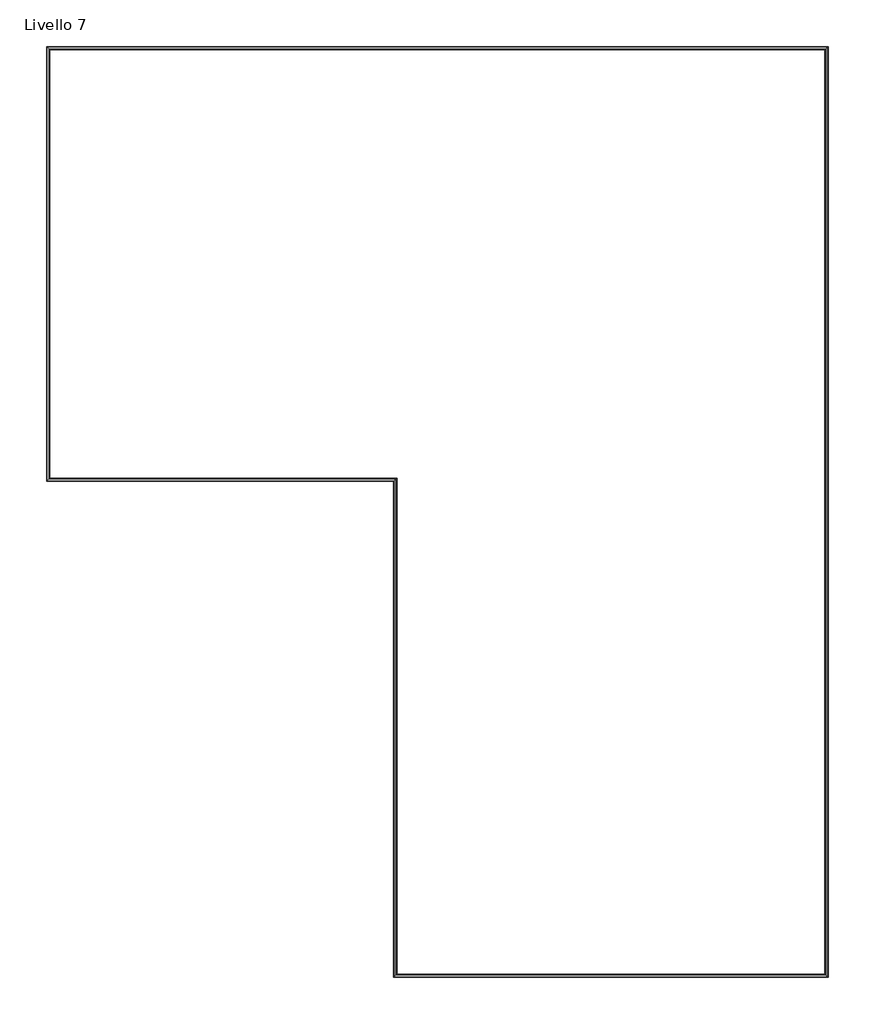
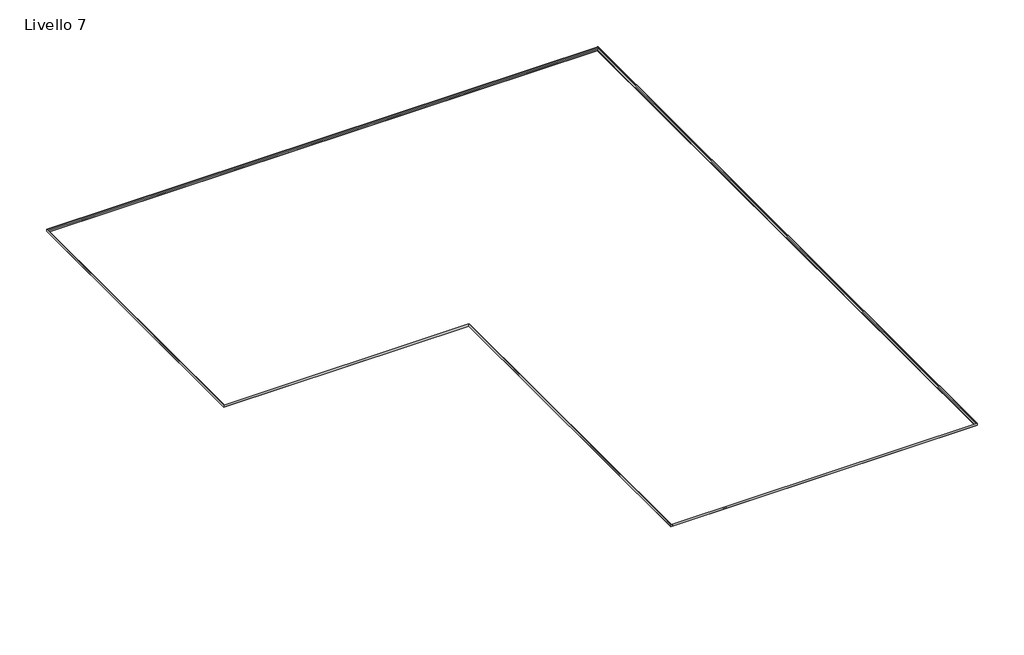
# One storey: 1 proxy.
"""IFC4 building model written with IfcOpenShell, lengths in millimetres."""

import ifcopenshell
import ifcopenshell.guid

model = None  # the IFC model being written
_history = None  # IfcOwnerHistory: only IFC2X3 demands one
_inside = {}  # id of a spatial element -> (the spatial element, [elements in it])
_under = {}  # id of a project, library or spatial element -> (it, [spatial elements below it])
_declared = {}  # id of a project -> (the project, [libraries it declares])
_typed = {}  # id of a type object -> (the type object, [elements of that type])
_made_of = {}  # id of a material, layer set ... -> (it, [elements and type objects made of it])


def new_model(schema):
    """Start an empty IFC model of exactly this schema.

    Asked for "IFC4X3", IfcOpenShell would pick the latest addendum, in which some entities
    have other attributes; the version numbers below select the first issue.
    IFC2X3 requires an IfcOwnerHistory on every rooted entity: one is made here for all.
    """
    global model, _history
    if schema == "IFC4X3":
        model = ifcopenshell.file(schema_version=(4, 3, 0, 0))
    else:
        model = ifcopenshell.file(schema=schema)
    _inside.clear()
    _under.clear()
    _declared.clear()
    _typed.clear()
    _made_of.clear()
    _history = None
    if model.schema == "IFC2X3":
        org = make("IfcOrganization", Name="unknown")
        user = make(
            "IfcPersonAndOrganization",
            ThePerson=make("IfcPerson", FamilyName="unknown"),
            TheOrganization=org,
        )
        app = make(
            "IfcApplication",
            ApplicationDeveloper=org,
            Version="unknown",
            ApplicationFullName="unknown",
            ApplicationIdentifier="unknown",
        )
        _history = make(
            "IfcOwnerHistory",
            OwningUser=user,
            OwningApplication=app,
            ChangeAction="ADDED",
            CreationDate=0,
        )
    return model


def make(cls, **values):
    """One entity of the class cls with the attributes given. An attribute that is None is left unset."""
    return model.create_entity(
        cls, **{name: value for name, value in values.items() if value is not None}
    )


def rooted(cls, **values):
    """An entity with a GlobalId (a new one), such as an element, a storey or a relation."""
    return make(cls, GlobalId=ifcopenshell.guid.new(), OwnerHistory=_history, **values)


def si_unit(unit_type, name, prefix=None):
    """IfcSIUnit, for example si_unit("LENGTHUNIT", "METRE", prefix="MILLI")."""
    return make("IfcSIUnit", UnitType=unit_type, Prefix=prefix, Name=name)


def assignment(units):
    """IfcUnitAssignment: the units of a project."""
    return None if units is None else make("IfcUnitAssignment", Units=units)


def point(xyz):
    """IfcCartesianPoint."""
    return None if xyz is None else make("IfcCartesianPoint", Coordinates=xyz)


def direction(xyz):
    """IfcDirection."""
    return None if xyz is None else make("IfcDirection", DirectionRatios=xyz)


def frame(location, z_axis=None, x_axis=None):
    """IfcAxis2Placement3D, a coordinate frame: its origin and axes. An axis left out is left unset."""
    return make(
        "IfcAxis2Placement3D",
        Location=point(location),
        Axis=direction(z_axis),
        RefDirection=direction(x_axis),
    )


def origin():
    """The frame at (0, 0, 0) with its axes left unset."""
    return frame((0.0, 0.0, 0.0))


def place(relative_to, where):
    """IfcLocalPlacement: puts the frame where relative to a parent placement (None: the world)."""
    return make(
        "IfcLocalPlacement", PlacementRelTo=relative_to, RelativePlacement=where
    )


def context(
    kind, dimensions, precision=None, world=None, true_north=None, identifier=None
):
    """IfcGeometricRepresentationContext, for example the 3D "Model" context."""
    return make(
        "IfcGeometricRepresentationContext",
        ContextIdentifier=identifier,
        ContextType=kind,
        CoordinateSpaceDimension=dimensions,
        Precision=precision,
        WorldCoordinateSystem=world,
        TrueNorth=true_north,
    )


def project(units=None, contexts=None):
    """IfcProject with its units and contexts."""
    return rooted(
        "IfcProject",
        Name="project",
        RepresentationContexts=contexts,
        UnitsInContext=assignment(units),
    )


def spatial(cls, under=None, at=None, **own):
    """A site, building, storey or space (cls), placed at a placement, below another one or the project."""
    s = rooted(cls, ObjectPlacement=at, **own)
    if under is not None:
        _under.setdefault(under.id(), (under, []))[1].append(s)
    return s


def faces_of(points, faces, orient=None, outer=None):
    """IfcFace entities. A face is a list of loops; a loop is a list of indices into points, from 0.

    orient and outer hold one flag for each loop. By default every Orientation is true, the
    first loop of a face is its IfcFaceOuterBound and the others are IfcFaceBound.
    """
    made = []
    for i, loops in enumerate(faces):
        bounds = []
        for j, loop in enumerate(loops):
            is_outer = j == 0 if outer is None else outer[i][j]
            bounds.append(
                make(
                    "IfcFaceOuterBound" if is_outer else "IfcFaceBound",
                    Bound=make("IfcPolyLoop", Polygon=[points[k] for k in loop]),
                    Orientation=True if orient is None else orient[i][j],
                )
            )
        made.append(make("IfcFace", Bounds=bounds))
    return made


def faceted_brep(points, faces, orient=None, outer=None, voids=None):
    """IfcFacetedBrep: a solid bounded by flat faces; with voids (closed shells), ...WithVoids."""
    shared = [point(p) for p in points]
    hull = make("IfcClosedShell", CfsFaces=faces_of(shared, faces, orient, outer))
    if voids is None:
        return make("IfcFacetedBrep", Outer=hull)
    return make(
        "IfcFacetedBrepWithVoids",
        Outer=hull,
        Voids=[
            make(cls, CfsFaces=faces_of(shared, fs, o, b)) for cls, fs, o, b in voids
        ],
    )


def shape(context_of_items, identifier, shape_type, items):
    """IfcShapeRepresentation: the items that make up one representation, for example the "Body"."""
    return make(
        "IfcShapeRepresentation",
        ContextOfItems=context_of_items,
        RepresentationIdentifier=identifier,
        RepresentationType=shape_type,
        Items=items,
    )


def made_of(thing, what):
    """Note that an element or type object is made of a material, layer set ...; save() writes the relation."""
    if what is not None:
        _made_of.setdefault(what.id(), (what, []))[1].append(thing)
    return thing


def element(
    cls,
    number,
    at=None,
    inside=None,
    cuts=None,
    type_object=None,
    material=None,
    context=None,
    identifier="Body",
    shape_type=None,
    held_by="IfcProductDefinitionShape",
    body=None,
    shapes=None,
    **own,
):
    """One element of the class cls, such as IfcWall. Its Tag is "e" and its number.

    at: its placement. inside: the storey or other place that contains it. cuts: it is an
    opening in that element (IfcRelVoidsElement). A single representation is given by context,
    identifier, shape_type and body (its items); several are given by shapes. held_by: the class
    of the entity that holds the representations. save() writes the other relations.
    """
    e = rooted(cls, Tag="e%d" % number, ObjectPlacement=at, **own)
    if body is not None:
        shapes = [shape(context, identifier, shape_type, body)]
    if shapes is not None:
        e.Representation = make(held_by, Representations=shapes)
    if inside is not None:
        _inside.setdefault(inside.id(), (inside, []))[1].append(e)
    if cuts is not None:
        rooted(
            "IfcRelVoidsElement", RelatingBuildingElement=cuts, RelatedOpeningElement=e
        )
    if type_object is not None:
        _typed.setdefault(type_object.id(), (type_object, []))[1].append(e)
    return made_of(e, material)


def aggregate(whole, parts):
    """IfcRelAggregates: a whole, such as a stair, and the parts it consists of."""
    return rooted("IfcRelAggregates", RelatingObject=whole, RelatedObjects=parts)


def save(model, path):
    """Write the relations noted so far, then the file.

    IfcRelAggregates (storeys below a building ...), IfcRelContainedInSpatialStructure (elements
    in a storey), IfcRelDefinesByType, IfcRelAssociatesMaterial and IfcRelDeclares: one each for
    every whole, place, type object, material and project.
    """
    for whole, parts in _under.values():
        aggregate(whole, parts)
    for where, things in _inside.values():
        rooted(
            "IfcRelContainedInSpatialStructure",
            RelatedElements=things,
            RelatingStructure=where,
        )
    for kind, things in _typed.values():
        rooted("IfcRelDefinesByType", RelatedObjects=things, RelatingType=kind)
    for what, things in _made_of.values():
        rooted("IfcRelAssociatesMaterial", RelatedObjects=things, RelatingMaterial=what)
    for by, libraries in _declared.values():
        rooted("IfcRelDeclares", RelatingContext=by, RelatedDefinitions=libraries)
    model.write(path)


model = new_model("IFC4")

# Units and contexts
model_context = context("Model", 3, world=origin())
ifc_project = project(units=[si_unit("LENGTHUNIT", "METRE", prefix="MILLI")], contexts=[model_context])

# Site, building, storey
site = spatial("IfcSite", under=ifc_project)
building = spatial("IfcBuilding", under=site)
storey = spatial("IfcBuildingStorey", under=building, Name="Livello 7", Elevation=-2459.0)

# Proxy
placement = place(None, origin())
element("IfcBuildingElementProxy", 1, Name="SISTEMA BI FLEX H.10 VOLTECO", ObjectType="SISTEMA BI FLEX H.10 VOLTECO", at=placement, inside=storey, context=model_context, shape_type="Brep", body=[
    faceted_brep([(10189.1031791, 8945.648913, -2459.0), (10191.6031791, 8948.148913, -2456.5), (10198.6031791, 8955.148913, -2456.5), (10200.1031791, 8956.648913, -2455.5), (10247.6031791, 9004.148913, -2455.5), (10247.6031791, 9004.148913, -2408.0), (10248.6031791, 9005.148913, -2406.5), (10248.6031791, 9005.148913, -2399.5), (10251.1031791, 9007.648913, -2397.0), (10251.1031791, 9007.648913, -2459.0), (10250.1031791, 9006.648913, -2408.0), (10249.1031791, 9005.648913, -2408.0), (10249.1031791, 9005.648913, -2457.0), (10200.1031791, 8956.648913, -2457.0), (10200.1031791, 8956.648913, -2458.0), (10250.1031791, 9006.648913, -2458.0), (10189.1031791, -9688.351087, -2459.0), (10251.1031791, -9750.351087, -2459.0), (10251.1031791, -9750.351087, -2397.0), (10248.6031791, -9747.851087, -2399.5), (10248.6031791, -9747.851087, -2406.5), (10247.6031791, -9746.851087, -2408.0), (10247.6031791, -9746.851087, -2455.5), (10200.1031791, -9699.351087, -2455.5), (10198.6031791, -9697.851087, -2456.5), (10191.6031791, -9690.851087, -2456.5), (10250.1031791, -9749.351087, -2408.0), (10250.1031791, -9749.351087, -2458.0), (10200.1031791, -9699.351087, -2458.0), (10200.1031791, -9699.351087, -2457.0), (10249.1031791, -9748.351087, -2457.0), (10249.1031791, -9748.351087, -2408.0)], [[[0, 1, 2, 3, 4, 5, 6, 7, 8, 9], [10, 11, 12, 13, 14, 15]], [[16, 17, 18, 19, 20, 21, 22, 23, 24, 25], [26, 27, 28, 29, 30, 31]], [[1, 0, 16, 25]], [[2, 1, 25, 24]], [[3, 2, 24, 23]], [[4, 3, 23, 22]], [[5, 4, 22, 21]], [[6, 5, 21, 20]], [[7, 6, 20, 19]], [[8, 7, 19, 18]], [[9, 8, 18, 17]], [[0, 9, 17, 16]], [[11, 10, 26, 31]], [[12, 11, 31, 30]], [[13, 12, 30, 29]], [[14, 13, 29, 28]], [[15, 14, 28, 27]], [[10, 15, 27, 26]]]),
    faceted_brep([(10189.1031791, -9688.351087, -2459.0), (10191.6031791, -9690.851087, -2456.5), (10198.6031791, -9697.851087, -2456.5), (10200.1031791, -9699.351087, -2455.5), (10247.6031791, -9746.851087, -2455.5), (10247.6031791, -9746.851087, -2408.0), (10248.6031791, -9747.851087, -2406.5), (10248.6031791, -9747.851087, -2399.5), (10251.1031791, -9750.351087, -2397.0), (10251.1031791, -9750.351087, -2459.0), (10250.1031791, -9749.351087, -2408.0), (10249.1031791, -9748.351087, -2408.0), (10249.1031791, -9748.351087, -2457.0), (10200.1031791, -9699.351087, -2457.0), (10200.1031791, -9699.351087, -2458.0), (10250.1031791, -9749.351087, -2458.0), (1555.1031791, -9688.351087, -2459.0), (1493.1031791, -9750.351087, -2459.0), (1493.1031791, -9750.351087, -2397.0), (1495.6031791, -9747.851087, -2399.5), (1495.6031791, -9747.851087, -2406.5), (1496.6031791, -9746.851087, -2408.0), (1496.6031791, -9746.851087, -2455.5), (1544.1031791, -9699.351087, -2455.5), (1545.6031791, -9697.851087, -2456.5), (1552.6031791, -9690.851087, -2456.5), (1494.1031791, -9749.351087, -2408.0), (1494.1031791, -9749.351087, -2458.0), (1544.1031791, -9699.351087, -2458.0), (1544.1031791, -9699.351087, -2457.0), (1495.1031791, -9748.351087, -2457.0), (1495.1031791, -9748.351087, -2408.0)], [[[0, 1, 2, 3, 4, 5, 6, 7, 8, 9], [10, 11, 12, 13, 14, 15]], [[16, 17, 18, 19, 20, 21, 22, 23, 24, 25], [26, 27, 28, 29, 30, 31]], [[1, 0, 16, 25]], [[2, 1, 25, 24]], [[3, 2, 24, 23]], [[4, 3, 23, 22]], [[5, 4, 22, 21]], [[6, 5, 21, 20]], [[7, 6, 20, 19]], [[8, 7, 19, 18]], [[9, 8, 18, 17]], [[0, 9, 17, 16]], [[11, 10, 26, 31]], [[12, 11, 31, 30]], [[13, 12, 30, 29]], [[14, 13, 29, 28]], [[15, 14, 28, 27]], [[10, 15, 27, 26]]]),
    faceted_brep([(1555.1031791, -9688.351087, -2459.0), (1552.6031791, -9690.851087, -2456.5), (1545.6031791, -9697.851087, -2456.5), (1544.1031791, -9699.351087, -2455.5), (1496.6031791, -9746.851087, -2455.5), (1496.6031791, -9746.851087, -2408.0), (1495.6031791, -9747.851087, -2406.5), (1495.6031791, -9747.851087, -2399.5), (1493.1031791, -9750.351087, -2397.0), (1493.1031791, -9750.351087, -2459.0), (1494.1031791, -9749.351087, -2408.0), (1495.1031791, -9748.351087, -2408.0), (1495.1031791, -9748.351087, -2457.0), (1544.1031791, -9699.351087, -2457.0), (1544.1031791, -9699.351087, -2458.0), (1494.1031791, -9749.351087, -2458.0), (1555.1031791, 311.648913, -2459.0), (1493.1031791, 249.648913, -2459.0), (1493.1031791, 249.648913, -2397.0), (1495.6031791, 252.148913, -2399.5), (1495.6031791, 252.148913, -2406.5), (1496.6031791, 253.148913, -2408.0), (1496.6031791, 253.148913, -2455.5), (1544.1031791, 300.648913, -2455.5), (1545.6031791, 302.148913, -2456.5), (1552.6031791, 309.148913, -2456.5), (1494.1031791, 250.648913, -2408.0), (1494.1031791, 250.648913, -2458.0), (1544.1031791, 300.648913, -2458.0), (1544.1031791, 300.648913, -2457.0), (1495.1031791, 251.648913, -2457.0), (1495.1031791, 251.648913, -2408.0)], [[[0, 1, 2, 3, 4, 5, 6, 7, 8, 9], [10, 11, 12, 13, 14, 15]], [[16, 17, 18, 19, 20, 21, 22, 23, 24, 25], [26, 27, 28, 29, 30, 31]], [[1, 0, 16, 25]], [[2, 1, 25, 24]], [[3, 2, 24, 23]], [[4, 3, 23, 22]], [[5, 4, 22, 21]], [[6, 5, 21, 20]], [[7, 6, 20, 19]], [[8, 7, 19, 18]], [[9, 8, 18, 17]], [[0, 9, 17, 16]], [[11, 10, 26, 31]], [[12, 11, 31, 30]], [[13, 12, 30, 29]], [[14, 13, 29, 28]], [[15, 14, 28, 27]], [[10, 15, 27, 26]]]),
    faceted_brep([(1555.1031791, 311.648913, -2459.0), (1552.6031791, 309.148913, -2456.5), (1545.6031791, 302.148913, -2456.5), (1544.1031791, 300.648913, -2455.5), (1496.6031791, 253.148913, -2455.5), (1496.6031791, 253.148913, -2408.0), (1495.6031791, 252.148913, -2406.5), (1495.6031791, 252.148913, -2399.5), (1493.1031791, 249.648913, -2397.0), (1493.1031791, 249.648913, -2459.0), (1494.1031791, 250.648913, -2408.0), (1495.1031791, 251.648913, -2408.0), (1495.1031791, 251.648913, -2457.0), (1544.1031791, 300.648913, -2457.0), (1544.1031791, 300.648913, -2458.0), (1494.1031791, 250.648913, -2458.0), (-5444.8968209, 311.648913, -2459.0), (-5506.8968209, 249.648913, -2459.0), (-5506.8968209, 249.648913, -2397.0), (-5504.3968209, 252.148913, -2399.5), (-5504.3968209, 252.148913, -2406.5), (-5503.3968209, 253.148913, -2408.0), (-5503.3968209, 253.148913, -2455.5), (-5455.8968209, 300.648913, -2455.5), (-5454.3968209, 302.148913, -2456.5), (-5447.3968209, 309.148913, -2456.5), (-5505.8968209, 250.648913, -2408.0), (-5505.8968209, 250.648913, -2458.0), (-5455.8968209, 300.648913, -2458.0), (-5455.8968209, 300.648913, -2457.0), (-5504.8968209, 251.648913, -2457.0), (-5504.8968209, 251.648913, -2408.0)], [[[0, 1, 2, 3, 4, 5, 6, 7, 8, 9], [10, 11, 12, 13, 14, 15]], [[16, 17, 18, 19, 20, 21, 22, 23, 24, 25], [26, 27, 28, 29, 30, 31]], [[1, 0, 16, 25]], [[2, 1, 25, 24]], [[3, 2, 24, 23]], [[4, 3, 23, 22]], [[5, 4, 22, 21]], [[6, 5, 21, 20]], [[7, 6, 20, 19]], [[8, 7, 19, 18]], [[9, 8, 18, 17]], [[0, 9, 17, 16]], [[11, 10, 26, 31]], [[12, 11, 31, 30]], [[13, 12, 30, 29]], [[14, 13, 29, 28]], [[15, 14, 28, 27]], [[10, 15, 27, 26]]]),
    faceted_brep([(-5444.8968209, 311.648913, -2459.0), (-5447.3968209, 309.148913, -2456.5), (-5454.3968209, 302.148913, -2456.5), (-5455.8968209, 300.648913, -2455.5), (-5503.3968209, 253.148913, -2455.5), (-5503.3968209, 253.148913, -2408.0), (-5504.3968209, 252.148913, -2406.5), (-5504.3968209, 252.148913, -2399.5), (-5506.8968209, 249.648913, -2397.0), (-5506.8968209, 249.648913, -2459.0), (-5505.8968209, 250.648913, -2408.0), (-5504.8968209, 251.648913, -2408.0), (-5504.8968209, 251.648913, -2457.0), (-5455.8968209, 300.648913, -2457.0), (-5455.8968209, 300.648913, -2458.0), (-5505.8968209, 250.648913, -2458.0), (-5444.8968209, 8945.648913, -2459.0), (-5506.8968209, 9007.648913, -2459.0), (-5506.8968209, 9007.648913, -2397.0), (-5504.3968209, 9005.148913, -2399.5), (-5504.3968209, 9005.148913, -2406.5), (-5503.3968209, 9004.148913, -2408.0), (-5503.3968209, 9004.148913, -2455.5), (-5455.8968209, 8956.648913, -2455.5), (-5454.3968209, 8955.148913, -2456.5), (-5447.3968209, 8948.148913, -2456.5), (-5505.8968209, 9006.648913, -2408.0), (-5505.8968209, 9006.648913, -2458.0), (-5455.8968209, 8956.648913, -2458.0), (-5455.8968209, 8956.648913, -2457.0), (-5504.8968209, 9005.648913, -2457.0), (-5504.8968209, 9005.648913, -2408.0)], [[[0, 1, 2, 3, 4, 5, 6, 7, 8, 9], [10, 11, 12, 13, 14, 15]], [[16, 17, 18, 19, 20, 21, 22, 23, 24, 25], [26, 27, 28, 29, 30, 31]], [[1, 0, 16, 25]], [[2, 1, 25, 24]], [[3, 2, 24, 23]], [[4, 3, 23, 22]], [[5, 4, 22, 21]], [[6, 5, 21, 20]], [[7, 6, 20, 19]], [[8, 7, 19, 18]], [[9, 8, 18, 17]], [[0, 9, 17, 16]], [[11, 10, 26, 31]], [[12, 11, 31, 30]], [[13, 12, 30, 29]], [[14, 13, 29, 28]], [[15, 14, 28, 27]], [[10, 15, 27, 26]]]),
    faceted_brep([(-5444.8968209, 8945.648913, -2459.0), (-5447.3968209, 8948.148913, -2456.5), (-5454.3968209, 8955.148913, -2456.5), (-5455.8968209, 8956.648913, -2455.5), (-5503.3968209, 9004.148913, -2455.5), (-5503.3968209, 9004.148913, -2408.0), (-5504.3968209, 9005.148913, -2406.5), (-5504.3968209, 9005.148913, -2399.5), (-5506.8968209, 9007.648913, -2397.0), (-5506.8968209, 9007.648913, -2459.0), (-5505.8968209, 9006.648913, -2408.0), (-5504.8968209, 9005.648913, -2408.0), (-5504.8968209, 9005.648913, -2457.0), (-5455.8968209, 8956.648913, -2457.0), (-5455.8968209, 8956.648913, -2458.0), (-5505.8968209, 9006.648913, -2458.0), (10189.1031791, 8945.648913, -2459.0), (10251.1031791, 9007.648913, -2459.0), (10251.1031791, 9007.648913, -2397.0), (10248.6031791, 9005.148913, -2399.5), (10248.6031791, 9005.148913, -2406.5), (10247.6031791, 9004.148913, -2408.0), (10247.6031791, 9004.148913, -2455.5), (10200.1031791, 8956.648913, -2455.5), (10198.6031791, 8955.148913, -2456.5), (10191.6031791, 8948.148913, -2456.5), (10250.1031791, 9006.648913, -2408.0), (10250.1031791, 9006.648913, -2458.0), (10200.1031791, 8956.648913, -2458.0), (10200.1031791, 8956.648913, -2457.0), (10249.1031791, 9005.648913, -2457.0), (10249.1031791, 9005.648913, -2408.0)], [[[0, 1, 2, 3, 4, 5, 6, 7, 8, 9], [10, 11, 12, 13, 14, 15]], [[16, 17, 18, 19, 20, 21, 22, 23, 24, 25], [26, 27, 28, 29, 30, 31]], [[1, 0, 16, 25]], [[2, 1, 25, 24]], [[3, 2, 24, 23]], [[4, 3, 23, 22]], [[5, 4, 22, 21]], [[6, 5, 21, 20]], [[7, 6, 20, 19]], [[8, 7, 19, 18]], [[9, 8, 18, 17]], [[0, 9, 17, 16]], [[11, 10, 26, 31]], [[12, 11, 31, 30]], [[13, 12, 30, 29]], [[14, 13, 29, 28]], [[15, 14, 28, 27]], [[10, 15, 27, 26]]]),
])

save(model, "model.ifc")
